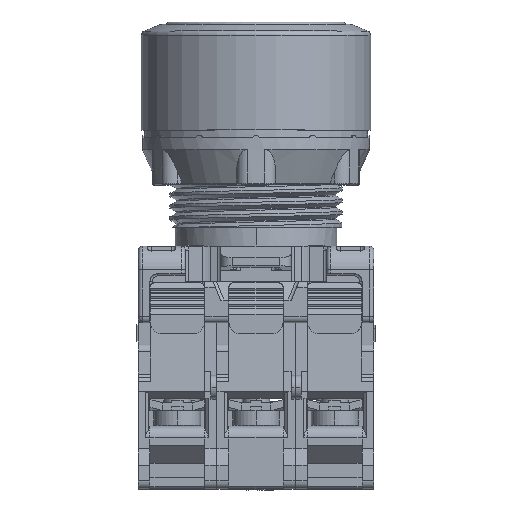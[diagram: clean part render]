
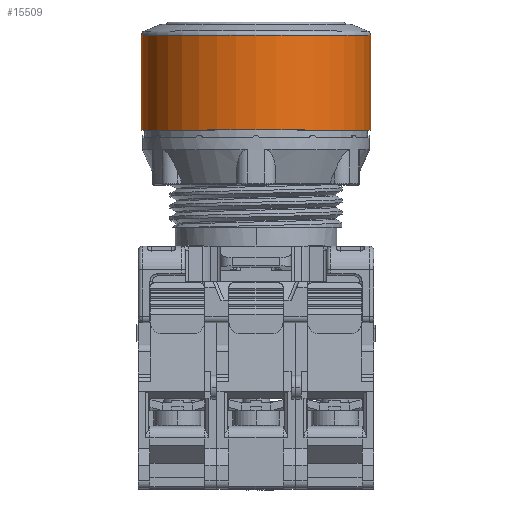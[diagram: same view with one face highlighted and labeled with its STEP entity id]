
A CAD part, top view. The second image highlights one B-rep face of the part: STEP entity #15509.
In plain terms, the highlighted cylindrical face has radius 14.65 mm (diameter 29.3 mm), a partial arc.
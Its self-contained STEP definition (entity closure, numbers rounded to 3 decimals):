
#1090 = VERTEX_POINT ( 'NONE', #93326 ) ;
#5948 = VECTOR ( 'NONE', #117002, 1000. ) ;
#9128 = VERTEX_POINT ( 'NONE', #123814 ) ;
#12865 = DIRECTION ( 'NONE',  ( 0., 0., -1. ) ) ;
#13638 = CARTESIAN_POINT ( 'NONE',  ( -14.65, 0., 35.447 ) ) ;
#15069 = AXIS2_PLACEMENT_3D ( 'NONE', #43700, #73953, #35297 ) ;
#15509 = ADVANCED_FACE ( 'NONE', ( #111996 ), #33399, .T. ) ;
#15943 = EDGE_CURVE ( 'NONE', #1090, #9128, #99468, .T. ) ;
#26799 = EDGE_CURVE ( 'NONE', #9128, #55633, #63173, .T. ) ;
#29564 = ORIENTED_EDGE ( 'NONE', *, *, #82915, .F. ) ;
#29993 = VERTEX_POINT ( 'NONE', #104494 ) ;
#32783 = DIRECTION ( 'NONE',  ( -1., 0., 0. ) ) ;
#33399 = CYLINDRICAL_SURFACE ( 'NONE', #15069, 14.65 ) ;
#35297 = DIRECTION ( 'NONE',  ( 1., 0., 0. ) ) ;
#43293 = EDGE_LOOP ( 'NONE', ( #97259, #45361, #51916, #29564 ) ) ;
#43700 = CARTESIAN_POINT ( 'NONE',  ( 0., 0., 30.305 ) ) ;
#43908 = AXIS2_PLACEMENT_3D ( 'NONE', #72533, #45435, #111842 ) ;
#45361 = ORIENTED_EDGE ( 'NONE', *, *, #26799, .F. ) ;
#45435 = DIRECTION ( 'NONE',  ( 0., 0., 1. ) ) ;
#51916 = ORIENTED_EDGE ( 'NONE', *, *, #15943, .F. ) ;
#55633 = VERTEX_POINT ( 'NONE', #106808 ) ;
#58311 = CIRCLE ( 'NONE', #111773, 14.65 ) ;
#61770 = CARTESIAN_POINT ( 'NONE',  ( 0., 0., 23.35 ) ) ;
#63173 = LINE ( 'NONE', #13638, #67511 ) ;
#67511 = VECTOR ( 'NONE', #92175, 1000. ) ;
#68602 = EDGE_CURVE ( 'NONE', #55633, #29993, #58311, .T. ) ;
#72533 = CARTESIAN_POINT ( 'NONE',  ( 0., 0., 35.447 ) ) ;
#73953 = DIRECTION ( 'NONE',  ( 0., 0., -1. ) ) ;
#79610 = CARTESIAN_POINT ( 'NONE',  ( 14.65, 0., 23.35 ) ) ;
#82915 = EDGE_CURVE ( 'NONE', #29993, #1090, #89269, .T. ) ;
#89269 = LINE ( 'NONE', #79610, #5948 ) ;
#92175 = DIRECTION ( 'NONE',  ( 0., 0., -1. ) ) ;
#93326 = CARTESIAN_POINT ( 'NONE',  ( 14.65, 0., 35.447 ) ) ;
#97259 = ORIENTED_EDGE ( 'NONE', *, *, #68602, .F. ) ;
#99468 = CIRCLE ( 'NONE', #43908, 14.65 ) ;
#104494 = CARTESIAN_POINT ( 'NONE',  ( 14.65, 0., 23.35 ) ) ;
#106808 = CARTESIAN_POINT ( 'NONE',  ( -14.65, 0., 23.35 ) ) ;
#111773 = AXIS2_PLACEMENT_3D ( 'NONE', #61770, #12865, #32783 ) ;
#111842 = DIRECTION ( 'NONE',  ( 1., 0., 0. ) ) ;
#111996 = FACE_OUTER_BOUND ( 'NONE', #43293, .T. ) ;
#117002 = DIRECTION ( 'NONE',  ( 0., 0., 1. ) ) ;
#123814 = CARTESIAN_POINT ( 'NONE',  ( -14.65, 0., 35.447 ) ) ;
